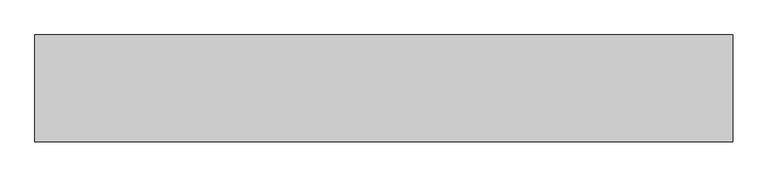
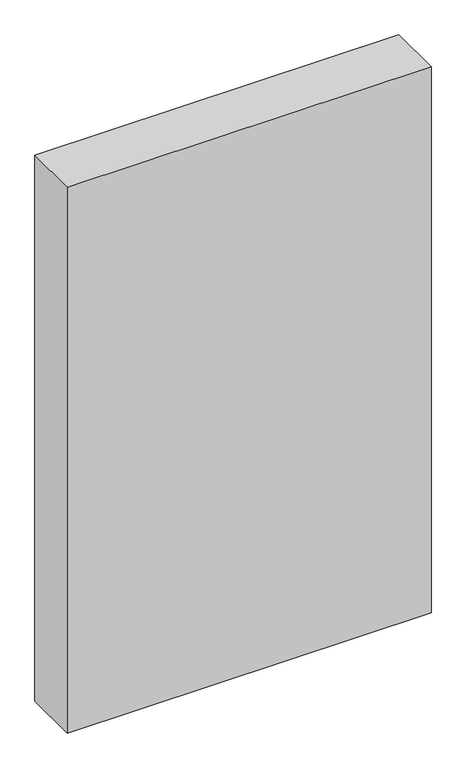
"""IFC4 building model written with IfcOpenShell, lengths in millimetres: proxy geometry."""

from ifc_helpers import new_model, si_unit, origin, origin_with_axes, place, context, project, spatial, polyline, outline, extrude, source, transform, mapped, element, save


def generic_models_690d45fe(model_context):
    return source(origin(), model_context, "Body", "SweptSolid", [
        extrude(outline(polyline([(-1000.0, 0.0), (0.0, 0.0), (0.0, -153.0), (-1000.0, -153.0), (-1000.0, 0.0)])), origin_with_axes(), (0.0, 0.0, 1.0), 1585.0),
    ])


if __name__ == "__main__":
    model = new_model("IFC4")
    model_context = context("Model", 3, world=origin())
    ifc_project = project(units=[si_unit("LENGTHUNIT", "METRE", prefix="MILLI")], contexts=[model_context])
    site = spatial("IfcSite", under=ifc_project)
    building = spatial("IfcBuilding", under=site)
    placement = place(None, origin())
    generic_models_shape = generic_models_690d45fe(model_context)
    element("IfcBuildingElementProxy", 1, Name="Generic Models", at=placement, inside=building, context=model_context, shape_type="MappedRepresentation", body=[
        mapped(generic_models_shape, transform((0.0, 0.0, 0.0), x_axis=(1.0, 0.0, 0.0), y_axis=(0.0, 1.0, 0.0), z_axis=(0.0, 0.0, 1.0))),
    ])
    save(model, "model.ifc")
